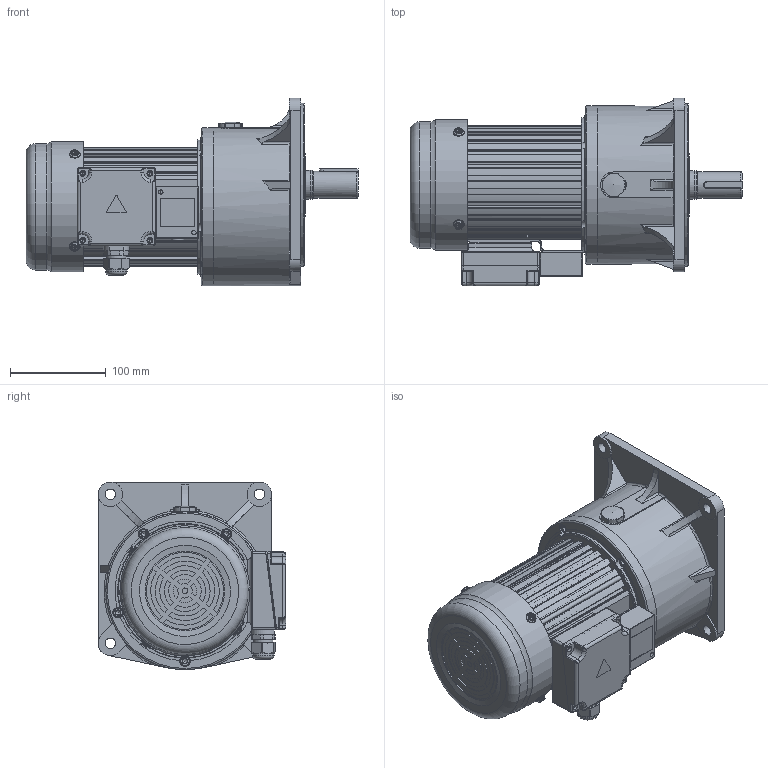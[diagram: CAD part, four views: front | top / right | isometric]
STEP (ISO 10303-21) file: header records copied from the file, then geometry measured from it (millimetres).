
FILE_DESCRIPTION(/* description */ (''),/* implementation_level */ '2;1');
FILE_NAME(/* name */ 'CV28-200-3～200外形多速比带刹车.stp',/* time_stamp */ '2025-05-02T10:08:15+08:00',/* author */ (''),/* organization */ (''),/* preprocessor_version */ 'ST-DEVELOPER v18.102',/* originating_system */ 'SIEMENS PLM Software NX 2027',/* authorisation */ '');
FILE_SCHEMA (('AP203_CONFIGURATION_CONTROLLED_3D_DESIGN_OF_MECHANICAL_PARTS_AND_ASSEMBLIES_MIM_LF { 1 0 10303 403 2 1 2}'));
Products named in the file (1): CV28-200-3～200外形多速比带刹车_
objects
Bounding box: 346.5 x 195.78 x 196.03 mm (x, y, z)
Volume: 4703274.1 mm3; surface area: 411598.2 mm2
Topology: 25 solids, 25 shells, 3182 faces, 8282 edges, 5315 vertices
Faces by surface type: plane 1870, cylinder 790, cone 248, torus 108, extrusion 96, bspline 45, revolution 16, sphere 9
Full cylindrical faces by diameter (mm): 1 x1, 1.8 x1, 3 x1, 3.3 x4, 3.5 x1, 4 x1, 4.2 x8, 4.336 x2, 4.5 x2, 4.826 x2, 5 x4, 5.795 x5, 6 x1, 6.4 x4, 7 x4, 10 x5, 11 x14, 12.5 x1, 13 x1, 13.98 x1, 14.5 x1, 16 x3, 17 x2, 19.5 x1, 20 x3, 21 x1, 22.5 x1, 25.5 x2, 27.6 x1, 28 x1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
Entity records: 104933 total; most frequent: CARTESIAN_POINT 29409, ORIENTED_EDGE 16072, DIRECTION 14585, EDGE_CURVE 8036, VERTEX_POINT 5258, AXIS2_PLACEMENT_3D 4942, VECTOR 4685, LINE 4589
